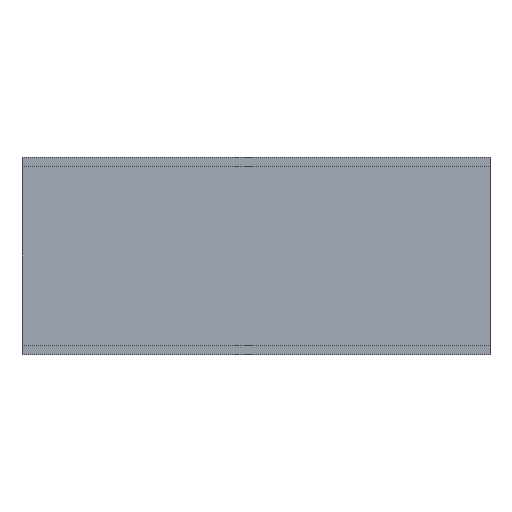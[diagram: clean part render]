
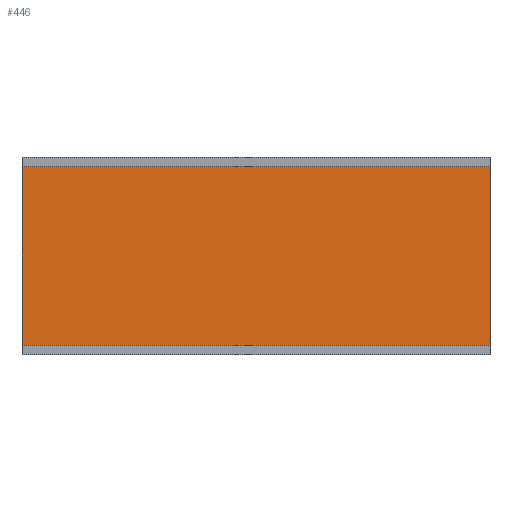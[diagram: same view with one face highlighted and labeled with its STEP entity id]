
A CAD part, front view. The second image highlights one B-rep face of the part: STEP entity #446.
In plain terms, the highlighted planar face has unit normal (0, -1, 0).
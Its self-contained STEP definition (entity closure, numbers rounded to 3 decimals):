
#10 = ORIENTED_EDGE ( 'NONE', *, *, #1546, .F. ) ;
#33 = EDGE_LOOP ( 'NONE', ( #1071, #10, #1254, #408 ) ) ;
#61 = DIRECTION ( 'NONE',  ( 0., 0., 1. ) ) ;
#196 = DIRECTION ( 'NONE',  ( 0., 0., -1. ) ) ;
#212 = CARTESIAN_POINT ( 'NONE',  ( 0., -68., -190.5 ) ) ;
#274 = LINE ( 'NONE', #572, #574 ) ;
#292 = CARTESIAN_POINT ( 'NONE',  ( 1000., -68., 190.5 ) ) ;
#311 = CARTESIAN_POINT ( 'NONE',  ( 1000., -68., -190.5 ) ) ;
#312 = AXIS2_PLACEMENT_3D ( 'NONE', #311, #819, #61 ) ;
#408 = ORIENTED_EDGE ( 'NONE', *, *, #960, .T. ) ;
#446 = ADVANCED_FACE ( 'NONE', ( #1226 ), #1072, .F. ) ;
#474 = VERTEX_POINT ( 'NONE', #212 ) ;
#481 = LINE ( 'NONE', #1581, #675 ) ;
#484 = LINE ( 'NONE', #1194, #1425 ) ;
#493 = EDGE_CURVE ( 'NONE', #1085, #851, #644, .T. ) ;
#551 = DIRECTION ( 'NONE',  ( 0., 0., -1. ) ) ;
#572 = CARTESIAN_POINT ( 'NONE',  ( 0., -68., -190.5 ) ) ;
#574 = VECTOR ( 'NONE', #551, 1000. ) ;
#644 = LINE ( 'NONE', #1343, #1287 ) ;
#675 = VECTOR ( 'NONE', #808, 1000. ) ;
#808 = DIRECTION ( 'NONE',  ( -1., 0., 0. ) ) ;
#819 = DIRECTION ( 'NONE',  ( 0., 1., 0. ) ) ;
#851 = VERTEX_POINT ( 'NONE', #1557 ) ;
#960 = EDGE_CURVE ( 'NONE', #1085, #1327, #484, .T. ) ;
#1000 = EDGE_CURVE ( 'NONE', #1327, #474, #274, .T. ) ;
#1071 = ORIENTED_EDGE ( 'NONE', *, *, #1000, .T. ) ;
#1072 = PLANE ( 'NONE',  #312 ) ;
#1085 = VERTEX_POINT ( 'NONE', #292 ) ;
#1194 = CARTESIAN_POINT ( 'NONE',  ( 1000., -68., 190.5 ) ) ;
#1226 = FACE_OUTER_BOUND ( 'NONE', #33, .T. ) ;
#1254 = ORIENTED_EDGE ( 'NONE', *, *, #493, .F. ) ;
#1287 = VECTOR ( 'NONE', #196, 1000. ) ;
#1327 = VERTEX_POINT ( 'NONE', #1541 ) ;
#1343 = CARTESIAN_POINT ( 'NONE',  ( 1000., -68., -190.5 ) ) ;
#1425 = VECTOR ( 'NONE', #1575, 1000. ) ;
#1541 = CARTESIAN_POINT ( 'NONE',  ( 0., -68., 190.5 ) ) ;
#1546 = EDGE_CURVE ( 'NONE', #851, #474, #481, .T. ) ;
#1557 = CARTESIAN_POINT ( 'NONE',  ( 1000., -68., -190.5 ) ) ;
#1575 = DIRECTION ( 'NONE',  ( -1., 0., 0. ) ) ;
#1581 = CARTESIAN_POINT ( 'NONE',  ( 1000., -68., -190.5 ) ) ;
